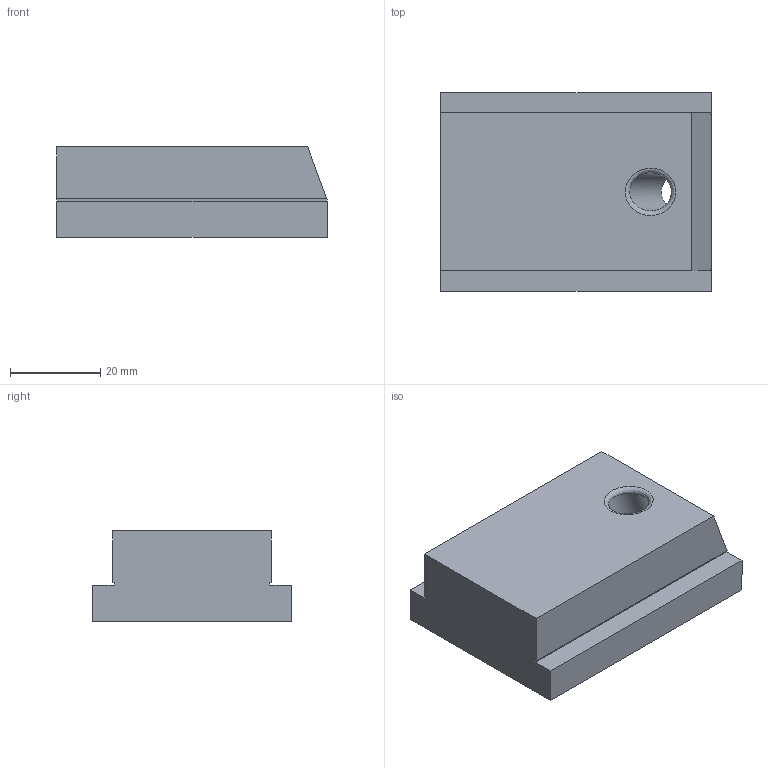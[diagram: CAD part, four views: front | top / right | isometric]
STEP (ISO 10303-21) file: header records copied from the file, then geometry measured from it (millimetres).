
FILE_DESCRIPTION (( 'STEP AP214' ), '1' );
FILE_NAME ('Schieber_-_H20 B35 L60.step', '2024-01-15T11:27:27', ( '' ), ( '' ), 'SwSTEP 2.0', 'SolidWorks 2020', '' );
FILE_SCHEMA (( 'AUTOMOTIVE_DESIGN' ));
Length unit declared in the file: millimetre
Products named in the file (1): Schieber_-_H20 B35 L60
Bounding box: 60 x 44 x 20 mm (x, y, z)
Volume: 44169.5 mm3; surface area: 9550.5 mm2
Topology: 1 solids, 1 shells, 211 faces, 564 edges, 375 vertices
Faces by surface type: bspline 107, plane 103, cylinder 1
Full cylindrical faces by diameter (mm): 8.5 x1
Entity records: 12220 total; most frequent: CARTESIAN_POINT 7662, ORIENTED_EDGE 1124, EDGE_CURVE 562, DIRECTION 557, VERTEX_POINT 375, LINE 347, VECTOR 347, EDGE_LOOP 235
